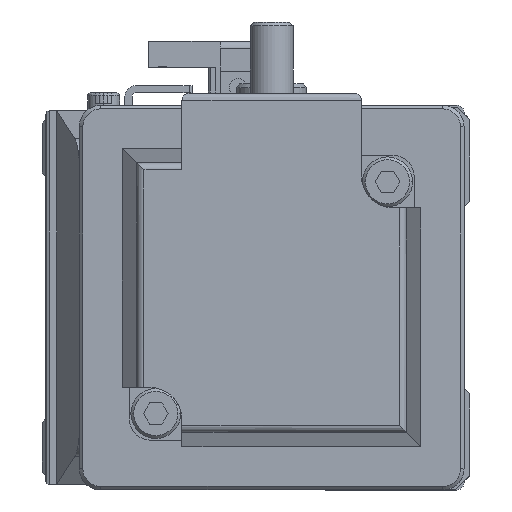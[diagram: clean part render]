
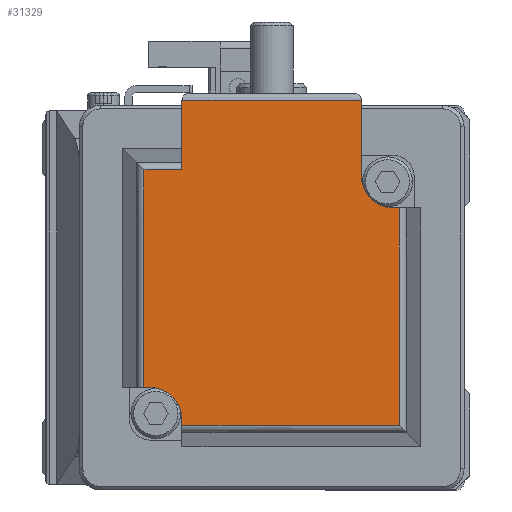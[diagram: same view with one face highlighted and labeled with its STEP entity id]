
A CAD part, left-side view. The second image highlights one B-rep face of the part: STEP entity #31329.
In plain terms, the highlighted planar face has unit normal (-1, 0, 0) as drawn and (0, 1, 0) by its records, which use the part's own axes.
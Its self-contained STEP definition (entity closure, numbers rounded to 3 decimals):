
#202 = DIRECTION ( 'NONE',  ( 0., 0., 1. ) ) ;
#212 = VERTEX_POINT ( 'NONE', #33344 ) ;
#448 = CARTESIAN_POINT ( 'NONE',  ( -12.6, 100.6, -17.1 ) ) ;
#660 = ORIENTED_EDGE ( 'NONE', *, *, #25152, .F. ) ;
#1161 = VECTOR ( 'NONE', #24056, 1000. ) ;
#2568 = CIRCLE ( 'NONE', #21683, 4.5 ) ;
#2940 = DIRECTION ( 'NONE',  ( 0., 0., 1. ) ) ;
#3062 = VECTOR ( 'NONE', #11886, 1000. ) ;
#4161 = PLANE ( 'NONE',  #13731 ) ;
#4492 = DIRECTION ( 'NONE',  ( -1., 0., 0. ) ) ;
#4520 = LINE ( 'NONE', #28918, #20537 ) ;
#5099 = VECTOR ( 'NONE', #28336, 1000. ) ;
#5148 = CARTESIAN_POINT ( 'NONE',  ( 12.6, 100.6, 25. ) ) ;
#5260 = CARTESIAN_POINT ( 'NONE',  ( 17.929, 100.6, -17.929 ) ) ;
#5405 = LINE ( 'NONE', #14520, #27959 ) ;
#5613 = VERTEX_POINT ( 'NONE', #448 ) ;
#6747 = LINE ( 'NONE', #18509, #33353 ) ;
#6864 = DIRECTION ( 'NONE',  ( 0., 0., -1. ) ) ;
#7035 = VERTEX_POINT ( 'NONE', #8579 ) ;
#7354 = ORIENTED_EDGE ( 'NONE', *, *, #23882, .F. ) ;
#7472 = EDGE_CURVE ( 'NONE', #14183, #22527, #27777, .T. ) ;
#7547 = ORIENTED_EDGE ( 'NONE', *, *, #7472, .F. ) ;
#7580 = CARTESIAN_POINT ( 'NONE',  ( 17.929, 100.6, -12.6 ) ) ;
#8579 = CARTESIAN_POINT ( 'NONE',  ( 27.7, 100.6, -12.6 ) ) ;
#9074 = ORIENTED_EDGE ( 'NONE', *, *, #24031, .F. ) ;
#9392 = CARTESIAN_POINT ( 'NONE',  ( 12.6, 100.6, 17.1 ) ) ;
#9794 = CARTESIAN_POINT ( 'NONE',  ( 17.929, 100.6, 17.929 ) ) ;
#10024 = ORIENTED_EDGE ( 'NONE', *, *, #28997, .F. ) ;
#10148 = EDGE_CURVE ( 'NONE', #16536, #10190, #23547, .T. ) ;
#10190 = VERTEX_POINT ( 'NONE', #28753 ) ;
#10510 = LINE ( 'NONE', #27412, #3062 ) ;
#11216 = ORIENTED_EDGE ( 'NONE', *, *, #21143, .F. ) ;
#11217 = EDGE_CURVE ( 'NONE', #11388, #7035, #5405, .T. ) ;
#11222 = LINE ( 'NONE', #18101, #27169 ) ;
#11304 = DIRECTION ( 'NONE',  ( 0., 1., 0. ) ) ;
#11388 = VERTEX_POINT ( 'NONE', #7580 ) ;
#11886 = DIRECTION ( 'NONE',  ( 0., 0., 1. ) ) ;
#12228 = CARTESIAN_POINT ( 'NONE',  ( 17.929, 100.6, 12.6 ) ) ;
#12631 = EDGE_CURVE ( 'NONE', #5613, #30865, #18988, .T. ) ;
#12810 = EDGE_CURVE ( 'NONE', #16536, #5613, #11222, .T. ) ;
#13731 = AXIS2_PLACEMENT_3D ( 'NONE', #27525, #29931, #17258 ) ;
#14183 = VERTEX_POINT ( 'NONE', #18708 ) ;
#14465 = ORIENTED_EDGE ( 'NONE', *, *, #29669, .F. ) ;
#14520 = CARTESIAN_POINT ( 'NONE',  ( 17.929, 100.6, -12.6 ) ) ;
#15393 = LINE ( 'NONE', #12228, #5099 ) ;
#15748 = DIRECTION ( 'NONE',  ( 1., 0., 0. ) ) ;
#16536 = VERTEX_POINT ( 'NONE', #20468 ) ;
#16665 = CARTESIAN_POINT ( 'NONE',  ( 17.1, 100.6, 17.1 ) ) ;
#16839 = ORIENTED_EDGE ( 'NONE', *, *, #10148, .F. ) ;
#17258 = DIRECTION ( 'NONE',  ( 0., 0., -1. ) ) ;
#17381 = VERTEX_POINT ( 'NONE', #31927 ) ;
#17404 = VECTOR ( 'NONE', #15748, 1000. ) ;
#18005 = VECTOR ( 'NONE', #4492, 1000. ) ;
#18101 = CARTESIAN_POINT ( 'NONE',  ( -12.6, 100.6, -21. ) ) ;
#18322 = ORIENTED_EDGE ( 'NONE', *, *, #12810, .T. ) ;
#18509 = CARTESIAN_POINT ( 'NONE',  ( -17.929, 100.6, 25. ) ) ;
#18708 = CARTESIAN_POINT ( 'NONE',  ( 12.6, 100.6, 17.929 ) ) ;
#18988 = CIRCLE ( 'NONE', #24154, 4.5 ) ;
#19353 = CARTESIAN_POINT ( 'NONE',  ( -17.1, 100.6, -12.6 ) ) ;
#19554 = DIRECTION ( 'NONE',  ( 1., 0., 0. ) ) ;
#20056 = CARTESIAN_POINT ( 'NONE',  ( -17.929, 100.6, -12.6 ) ) ;
#20402 = DIRECTION ( 'NONE',  ( 0., 0., 1. ) ) ;
#20468 = CARTESIAN_POINT ( 'NONE',  ( -12.6, 100.6, -17.929 ) ) ;
#20537 = VECTOR ( 'NONE', #2940, 1000. ) ;
#20894 = LINE ( 'NONE', #32276, #1161 ) ;
#21143 = EDGE_CURVE ( 'NONE', #29367, #30865, #20894, .T. ) ;
#21683 = AXIS2_PLACEMENT_3D ( 'NONE', #16665, #11304, #26919 ) ;
#22527 = VERTEX_POINT ( 'NONE', #22717 ) ;
#22604 = VECTOR ( 'NONE', #202, 1000. ) ;
#22717 = CARTESIAN_POINT ( 'NONE',  ( -17.929, 100.6, 17.929 ) ) ;
#22839 = FACE_OUTER_BOUND ( 'NONE', #32148, .T. ) ;
#22958 = VERTEX_POINT ( 'NONE', #9392 ) ;
#23547 = LINE ( 'NONE', #5260, #17404 ) ;
#23676 = EDGE_CURVE ( 'NONE', #10190, #11388, #10510, .T. ) ;
#23882 = EDGE_CURVE ( 'NONE', #17381, #212, #15393, .T. ) ;
#24031 = EDGE_CURVE ( 'NONE', #22527, #29367, #6747, .T. ) ;
#24056 = DIRECTION ( 'NONE',  ( 1., 0., 0. ) ) ;
#24154 = AXIS2_PLACEMENT_3D ( 'NONE', #27804, #25067, #6864 ) ;
#24729 = ORIENTED_EDGE ( 'NONE', *, *, #23676, .F. ) ;
#25067 = DIRECTION ( 'NONE',  ( 0., -1., 0. ) ) ;
#25152 = EDGE_CURVE ( 'NONE', #212, #22958, #2568, .T. ) ;
#26919 = DIRECTION ( 'NONE',  ( 0., 0., -1. ) ) ;
#27169 = VECTOR ( 'NONE', #20402, 1000. ) ;
#27412 = CARTESIAN_POINT ( 'NONE',  ( 17.929, 100.6, 25. ) ) ;
#27525 = CARTESIAN_POINT ( 'NONE',  ( 17.929, 100.6, 25. ) ) ;
#27777 = LINE ( 'NONE', #9794, #18005 ) ;
#27804 = CARTESIAN_POINT ( 'NONE',  ( -17.1, 100.6, -17.1 ) ) ;
#27959 = VECTOR ( 'NONE', #19554, 1000. ) ;
#28336 = DIRECTION ( 'NONE',  ( -1., 0., 0. ) ) ;
#28753 = CARTESIAN_POINT ( 'NONE',  ( 17.929, 100.6, -17.929 ) ) ;
#28918 = CARTESIAN_POINT ( 'NONE',  ( 27.7, 100.6, 25. ) ) ;
#28997 = EDGE_CURVE ( 'NONE', #22958, #14183, #30357, .T. ) ;
#29367 = VERTEX_POINT ( 'NONE', #20056 ) ;
#29669 = EDGE_CURVE ( 'NONE', #7035, #17381, #4520, .T. ) ;
#29931 = DIRECTION ( 'NONE',  ( 0., -1., 0. ) ) ;
#30040 = ORIENTED_EDGE ( 'NONE', *, *, #12631, .T. ) ;
#30357 = LINE ( 'NONE', #5148, #22604 ) ;
#30865 = VERTEX_POINT ( 'NONE', #19353 ) ;
#31329 = ADVANCED_FACE ( 'NONE', ( #22839 ), #4161, .F. ) ;
#31912 = ORIENTED_EDGE ( 'NONE', *, *, #11217, .F. ) ;
#31927 = CARTESIAN_POINT ( 'NONE',  ( 27.7, 100.6, 12.6 ) ) ;
#32148 = EDGE_LOOP ( 'NONE', ( #7354, #14465, #31912, #24729, #16839, #18322, #30040, #11216, #9074, #7547, #10024, #660 ) ) ;
#32276 = CARTESIAN_POINT ( 'NONE',  ( 17.929, 100.6, -12.6 ) ) ;
#33344 = CARTESIAN_POINT ( 'NONE',  ( 17.1, 100.6, 12.6 ) ) ;
#33353 = VECTOR ( 'NONE', #33807, 1000. ) ;
#33807 = DIRECTION ( 'NONE',  ( 0., 0., -1. ) ) ;
